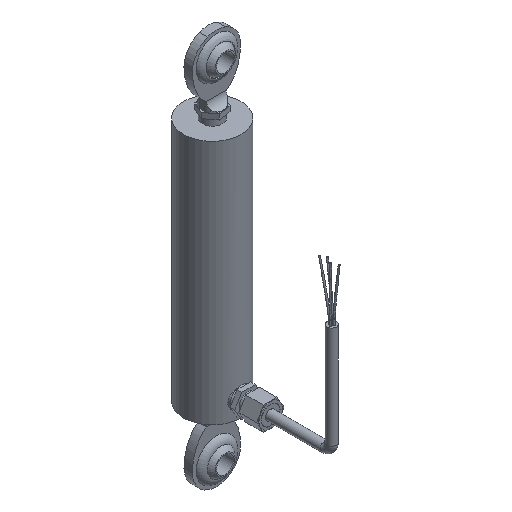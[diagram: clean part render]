
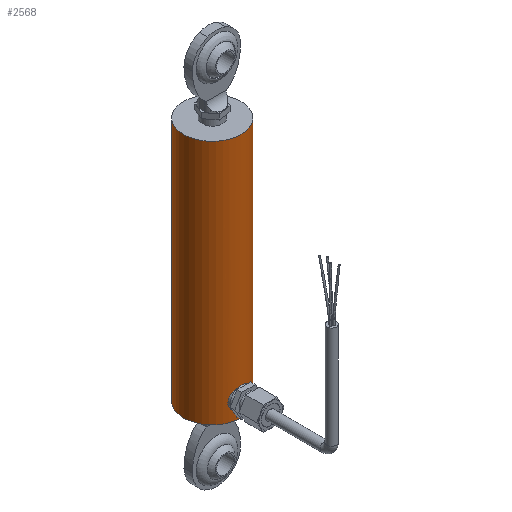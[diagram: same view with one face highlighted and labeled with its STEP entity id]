
A CAD part, isometric view. The second image highlights one B-rep face of the part: STEP entity #2568.
In plain terms, the highlighted cylindrical face has radius 13.335 mm (diameter 26.67 mm), a full revolution.
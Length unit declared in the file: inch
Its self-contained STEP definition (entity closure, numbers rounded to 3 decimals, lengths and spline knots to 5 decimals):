
#101=B_SPLINE_CURVE_WITH_KNOTS('',3,(#6590,#6591,#6592,#6593,#6594,#6595,
#6596,#6597,#6598,#6599),.UNSPECIFIED.,.F.,.F.,(4,2,2,2,4),(0.,0.19357,
0.38715,0.58056,0.77398),.UNSPECIFIED.);
#102=B_SPLINE_CURVE_WITH_KNOTS('',3,(#6600,#6601,#6602,#6603,#6604,#6605,
#6606,#6607,#6608,#6609),.UNSPECIFIED.,.F.,.F.,(4,2,2,2,4),(2.32194,
2.51535,2.70877,2.90234,3.09591),
 .UNSPECIFIED.);
#103=B_SPLINE_CURVE_WITH_KNOTS('',3,(#6611,#6612,#6613,#6614,#6615,#6616,
#6617,#6618,#6619,#6620,#6621,#6622,#6623,#6624,#6625,#6626,#6627,#6628),
 .UNSPECIFIED.,.F.,.F.,(4,2,2,2,2,2,2,2,4),(0.77398,0.96739,
1.16081,1.35438,1.54796,1.74153,1.93511,
2.12852,2.32194),.UNSPECIFIED.);
#160=CYLINDRICAL_SURFACE('',#2977,0.525);
#204=FACE_BOUND('',#593,.T.);
#275=CIRCLE('',#2978,0.525);
#276=CIRCLE('',#2979,0.525);
#424=FACE_OUTER_BOUND('',#592,.T.);
#592=EDGE_LOOP('',(#1910,#1911,#1912,#1913));
#593=EDGE_LOOP('',(#1914,#1915,#1916));
#779=LINE('',#6634,#924);
#924=VECTOR('',#3516,0.525);
#1096=VERTEX_POINT('',#6583);
#1097=VERTEX_POINT('',#6585);
#1098=VERTEX_POINT('',#6589);
#1099=VERTEX_POINT('',#6631);
#1100=VERTEX_POINT('',#6633);
#1388=EDGE_CURVE('',#1098,#1096,#101,.T.);
#1389=EDGE_CURVE('',#1097,#1098,#102,.T.);
#1390=EDGE_CURVE('',#1096,#1097,#103,.T.);
#1391=EDGE_CURVE('',#1099,#1099,#275,.T.);
#1392=EDGE_CURVE('',#1099,#1100,#779,.T.);
#1393=EDGE_CURVE('',#1100,#1100,#276,.T.);
#1910=ORIENTED_EDGE('',*,*,#1391,.F.);
#1911=ORIENTED_EDGE('',*,*,#1392,.T.);
#1912=ORIENTED_EDGE('',*,*,#1393,.T.);
#1913=ORIENTED_EDGE('',*,*,#1392,.F.);
#1914=ORIENTED_EDGE('',*,*,#1388,.T.);
#1915=ORIENTED_EDGE('',*,*,#1390,.T.);
#1916=ORIENTED_EDGE('',*,*,#1389,.T.);
#2568=ADVANCED_FACE('',(#424,#204),#160,.T.);
#2977=AXIS2_PLACEMENT_3D('',#6630,#3512,#3513);
#2978=AXIS2_PLACEMENT_3D('',#6632,#3514,#3515);
#2979=AXIS2_PLACEMENT_3D('',#6635,#3517,#3518);
#3512=DIRECTION('center_axis',(0.,0.,
1.));
#3513=DIRECTION('ref_axis',(-1.,0.,0.));
#3514=DIRECTION('center_axis',(0.,0.,
1.));
#3515=DIRECTION('ref_axis',(-1.,0.,0.));
#3516=DIRECTION('',(0.,0.,-1.));
#3517=DIRECTION('center_axis',(0.,0.,
1.));
#3518=DIRECTION('ref_axis',(-1.,0.,0.));
#6583=CARTESIAN_POINT('',(0.,-0.525,0.11847));
#6585=CARTESIAN_POINT('',(0.,-0.525,0.51847));
#6589=CARTESIAN_POINT('',(0.2,-0.48541,0.31847));
#6590=CARTESIAN_POINT('Ctrl Pts',(0.2,-0.48541,0.31847));
#6591=CARTESIAN_POINT('Ctrl Pts',(0.2,-0.48541,0.29307));
#6592=CARTESIAN_POINT('Ctrl Pts',(0.19487,-0.48762,
0.26617));
#6593=CARTESIAN_POINT('Ctrl Pts',(0.17439,-0.49531,
0.21699));
#6594=CARTESIAN_POINT('Ctrl Pts',(0.15904,-0.50066,
0.19467));
#6595=CARTESIAN_POINT('Ctrl Pts',(0.12381,-0.51052,
0.15944));
#6596=CARTESIAN_POINT('Ctrl Pts',(0.10149,-0.5157,
0.14409));
#6597=CARTESIAN_POINT('Ctrl Pts',(0.05229,-0.52298,
0.1236));
#6598=CARTESIAN_POINT('Ctrl Pts',(0.02538,-0.525,0.11847));
#6599=CARTESIAN_POINT('Ctrl Pts',(0.,-0.525,0.11847));
#6600=CARTESIAN_POINT('Ctrl Pts',(0.,-0.525,0.51847));
#6601=CARTESIAN_POINT('Ctrl Pts',(0.02538,-0.525,0.51847));
#6602=CARTESIAN_POINT('Ctrl Pts',(0.05229,-0.52298,
0.51335));
#6603=CARTESIAN_POINT('Ctrl Pts',(0.10149,-0.5157,
0.49285));
#6604=CARTESIAN_POINT('Ctrl Pts',(0.12381,-0.51052,
0.4775));
#6605=CARTESIAN_POINT('Ctrl Pts',(0.15904,-0.50066,
0.44227));
#6606=CARTESIAN_POINT('Ctrl Pts',(0.17439,-0.49531,
0.41996));
#6607=CARTESIAN_POINT('Ctrl Pts',(0.19487,-0.48762,
0.37077));
#6608=CARTESIAN_POINT('Ctrl Pts',(0.2,-0.48541,0.34388));
#6609=CARTESIAN_POINT('Ctrl Pts',(0.2,-0.48541,0.31847));
#6611=CARTESIAN_POINT('Ctrl Pts',(0.,-0.525,0.11847));
#6612=CARTESIAN_POINT('Ctrl Pts',(-0.02538,-0.525,0.11847));
#6613=CARTESIAN_POINT('Ctrl Pts',(-0.05229,-0.52298,
0.1236));
#6614=CARTESIAN_POINT('Ctrl Pts',(-0.10149,-0.5157,
0.14409));
#6615=CARTESIAN_POINT('Ctrl Pts',(-0.12381,-0.51052,
0.15944));
#6616=CARTESIAN_POINT('Ctrl Pts',(-0.15904,-0.50066,
0.19467));
#6617=CARTESIAN_POINT('Ctrl Pts',(-0.17439,-0.49531,
0.21699));
#6618=CARTESIAN_POINT('Ctrl Pts',(-0.19487,-0.48762,
0.26617));
#6619=CARTESIAN_POINT('Ctrl Pts',(-0.2,-0.48541,0.29307));
#6620=CARTESIAN_POINT('Ctrl Pts',(-0.2,-0.48541,0.34388));
#6621=CARTESIAN_POINT('Ctrl Pts',(-0.19487,-0.48762,
0.37077));
#6622=CARTESIAN_POINT('Ctrl Pts',(-0.17439,-0.49531,
0.41996));
#6623=CARTESIAN_POINT('Ctrl Pts',(-0.15904,-0.50066,
0.44227));
#6624=CARTESIAN_POINT('Ctrl Pts',(-0.12381,-0.51052,
0.4775));
#6625=CARTESIAN_POINT('Ctrl Pts',(-0.10149,-0.5157,
0.49285));
#6626=CARTESIAN_POINT('Ctrl Pts',(-0.05229,-0.52298,
0.51335));
#6627=CARTESIAN_POINT('Ctrl Pts',(-0.02538,-0.525,0.51847));
#6628=CARTESIAN_POINT('Ctrl Pts',(0.,-0.525,0.51847));
#6630=CARTESIAN_POINT('Origin',(0.,0.,0.));
#6631=CARTESIAN_POINT('',(0.525,0.,4.5));
#6632=CARTESIAN_POINT('Origin',(0.,0.,
4.5));
#6633=CARTESIAN_POINT('',(0.525,0.,0.));
#6634=CARTESIAN_POINT('',(0.525,0.,0.));
#6635=CARTESIAN_POINT('Origin',(0.,0.,0.));
